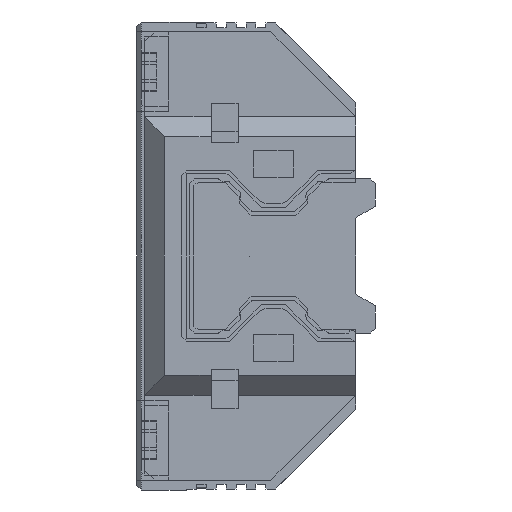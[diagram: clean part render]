
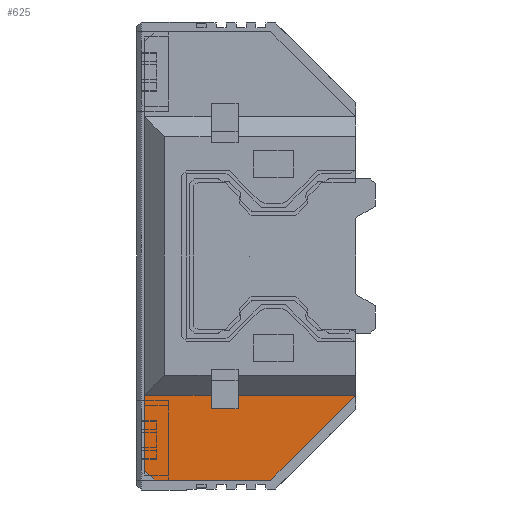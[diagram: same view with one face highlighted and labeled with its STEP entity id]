
A CAD part, left-side view. The second image highlights one B-rep face of the part: STEP entity #625.
In plain terms, the highlighted planar face has unit normal (-1, 0, 0).
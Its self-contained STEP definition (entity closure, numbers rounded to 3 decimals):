
#625 = ADVANCED_FACE( '', ( #2172 ), #2173, .T. );
#2172 = FACE_OUTER_BOUND( '', #4015, .T. );
#2173 = PLANE( '', #4016 );
#4015 = EDGE_LOOP( '', ( #7834, #7835, #7836, #7837, #7838, #7839, #7840, #7841, #7842 ) );
#4016 = AXIS2_PLACEMENT_3D( '', #7843, #7844, #7845 );
#7834 = ORIENTED_EDGE( '', *, *, #11077, .F. );
#7835 = ORIENTED_EDGE( '', *, *, #11101, .F. );
#7836 = ORIENTED_EDGE( '', *, *, #11102, .F. );
#7837 = ORIENTED_EDGE( '', *, *, #11103, .F. );
#7838 = ORIENTED_EDGE( '', *, *, #11104, .F. );
#7839 = ORIENTED_EDGE( '', *, *, #11105, .F. );
#7840 = ORIENTED_EDGE( '', *, *, #11106, .F. );
#7841 = ORIENTED_EDGE( '', *, *, #11063, .T. );
#7842 = ORIENTED_EDGE( '', *, *, #11070, .T. );
#7843 = CARTESIAN_POINT( '', ( -42., 39., -14. ) );
#7844 = DIRECTION( '', ( -1., 0., 0. ) );
#7845 = DIRECTION( '', ( 0., 0., 1. ) );
#11063 = EDGE_CURVE( '', #13551, #13549, #13552, .T. );
#11070 = EDGE_CURVE( '', #13549, #13562, #13564, .T. );
#11077 = EDGE_CURVE( '', #13575, #13562, #13577, .T. );
#11101 = EDGE_CURVE( '', #13617, #13575, #13621, .T. );
#11102 = EDGE_CURVE( '', #13622, #13617, #13623, .T. );
#11103 = EDGE_CURVE( '', #13624, #13622, #13625, .T. );
#11104 = EDGE_CURVE( '', #13626, #13624, #13627, .T. );
#11105 = EDGE_CURVE( '', #13628, #13626, #13629, .T. );
#11106 = EDGE_CURVE( '', #13551, #13628, #13630, .T. );
#13549 = VERTEX_POINT( '', #16941 );
#13551 = VERTEX_POINT( '', #16944 );
#13552 = LINE( '', #16945, #16946 );
#13562 = VERTEX_POINT( '', #16961 );
#13564 = LINE( '', #16964, #16965 );
#13575 = VERTEX_POINT( '', #16981 );
#13577 = LINE( '', #16984, #16985 );
#13617 = VERTEX_POINT( '', #17045 );
#13621 = LINE( '', #17052, #17053 );
#13622 = VERTEX_POINT( '', #17054 );
#13623 = LINE( '', #17055, #17056 );
#13624 = VERTEX_POINT( '', #17057 );
#13625 = LINE( '', #17058, #17059 );
#13626 = VERTEX_POINT( '', #17060 );
#13627 = LINE( '', #17061, #17062 );
#13628 = VERTEX_POINT( '', #17063 );
#13629 = LINE( '', #17064, #17065 );
#13630 = LINE( '', #17066, #17067 );
#16941 = CARTESIAN_POINT( '', ( -42., 4.45, -15.35 ) );
#16944 = CARTESIAN_POINT( '', ( -42., 4.45, -14. ) );
#16945 = CARTESIAN_POINT( '', ( -42., 4.45, -14. ) );
#16946 = VECTOR( '', #20542, 1000. );
#16961 = CARTESIAN_POINT( '', ( -42., 7.15, -15.35 ) );
#16964 = CARTESIAN_POINT( '', ( -42., 39., -15.35 ) );
#16965 = VECTOR( '', #20549, 1000. );
#16981 = CARTESIAN_POINT( '', ( -42., 7.15, -14. ) );
#16984 = CARTESIAN_POINT( '', ( -42., 7.15, -14. ) );
#16985 = VECTOR( '', #20556, 1000. );
#17045 = CARTESIAN_POINT( '', ( -42., 13.85, -14. ) );
#17052 = CARTESIAN_POINT( '', ( -42., 39., -14. ) );
#17053 = VECTOR( '', #20580, 1000. );
#17054 = CARTESIAN_POINT( '', ( -42., 13.85, -21.5 ) );
#17055 = CARTESIAN_POINT( '', ( -42., 13.85, -21.5 ) );
#17056 = VECTOR( '', #20581, 1000. );
#17057 = CARTESIAN_POINT( '', ( -42., 12.85, -22.5 ) );
#17058 = CARTESIAN_POINT( '', ( -42., 12.85, -22.5 ) );
#17059 = VECTOR( '', #20582, 1000. );
#17060 = CARTESIAN_POINT( '', ( -42., 1.15, -22.5 ) );
#17061 = CARTESIAN_POINT( '', ( -42., 1.15, -22.5 ) );
#17062 = VECTOR( '', #20583, 1000. );
#17063 = CARTESIAN_POINT( '', ( -42., -7.35, -14. ) );
#17064 = CARTESIAN_POINT( '', ( -42., -7.35, -14. ) );
#17065 = VECTOR( '', #20584, 1000. );
#17066 = CARTESIAN_POINT( '', ( -42., 39., -14. ) );
#17067 = VECTOR( '', #20585, 1000. );
#20542 = DIRECTION( '', ( 0., 0., -1. ) );
#20549 = DIRECTION( '', ( 0., 1., 0. ) );
#20556 = DIRECTION( '', ( 0., 0., -1. ) );
#20580 = DIRECTION( '', ( 0., -1., 0. ) );
#20581 = DIRECTION( '', ( 0., 0., 1. ) );
#20582 = DIRECTION( '', ( 0., 0.707, 0.707 ) );
#20583 = DIRECTION( '', ( 0., 1., 0. ) );
#20584 = DIRECTION( '', ( 0., 0.707, -0.707 ) );
#20585 = DIRECTION( '', ( 0., -1., 0. ) );
